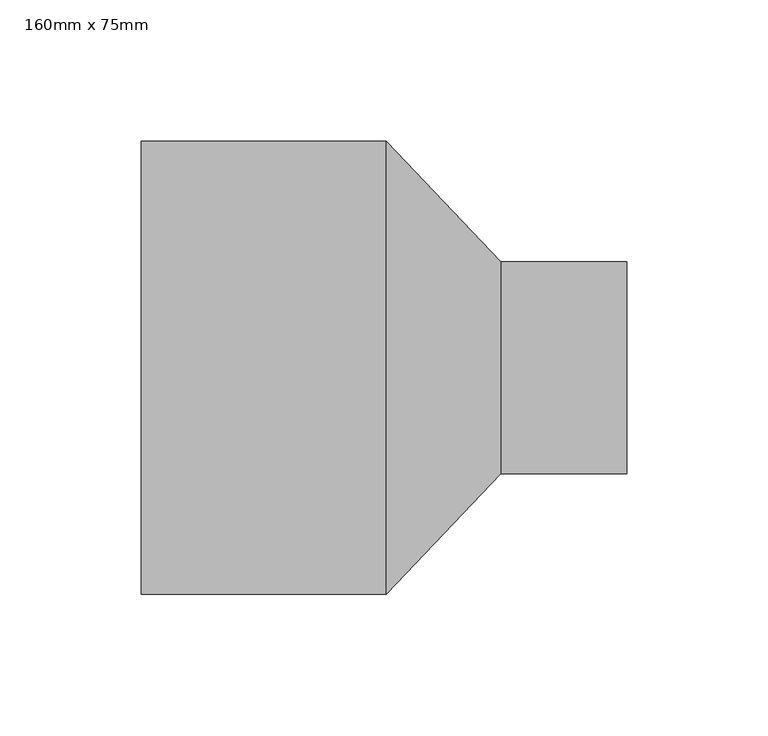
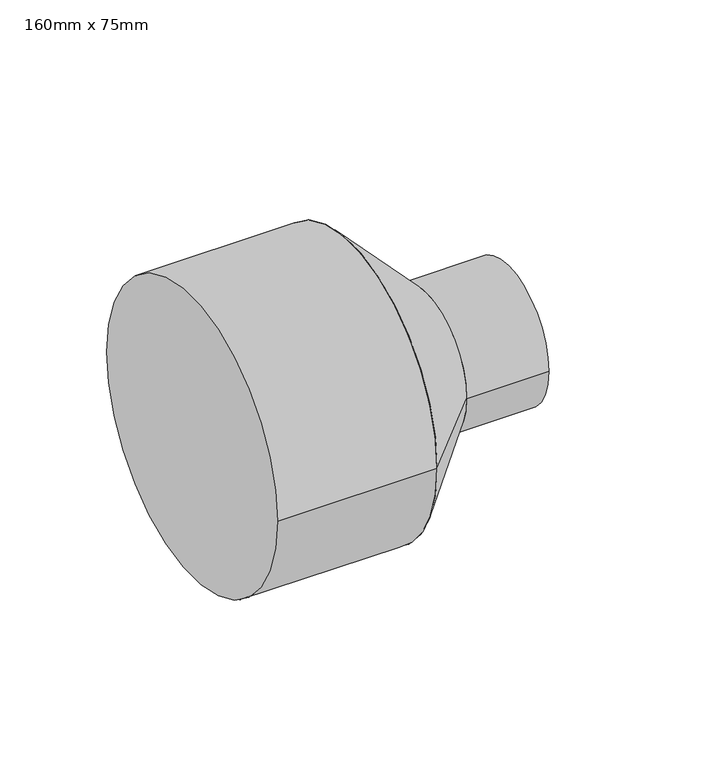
"""IFC4 building model written with IfcOpenShell, lengths in millimetres: pipe fitting geometry, PipeFitting_HTA_CPVC_ReducingBushesLongPattern : 160mm x 75mm."""

from ifc_helpers import new_model, si_unit, point, frame, origin, origin_2d, place, context, project, spatial, polyline, circle_curve, trimmed, segment, composite_curve, outline, extrude, source, transform, mapped, element, save
from ifc_brep_helpers import plane_surface, revolved_surface, advanced_brep


def pipe_fitting_160mm_x_75mm_1847dd5a(model_context):
    return source(origin(), model_context, "Body", "SolidModel", [
        advanced_brep(
        [(127.0, -37.5, 0.0), (127.0, 37.5, 0.0), (86.5, -80.0, 0.0), (86.5, 80.0, 0.0)],
        [
            (0, 1, circle_curve(frame((127.0, 0.0, 0.0), z_axis=(1.0, 0.0, 0.0), x_axis=(0.0, -1.0, 0.0)), 37.5)),
            (1, 0, circle_curve(frame((127.0, 0.0, 0.0), z_axis=(1.0, 0.0, 0.0), x_axis=(0.0, 1.0, 0.0)), 37.5)),
            (2, 3, circle_curve(frame((86.5, 0.0, 0.0), z_axis=(-1.0, 0.0, 0.0), x_axis=(0.0, 1.0, 0.0)), 80.0)),
            (3, 2, circle_curve(frame((86.5, 0.0, 0.0), z_axis=(-1.0, 0.0, 0.0), x_axis=(0.0, -1.0, 0.0)), 80.0)),
            (3, 1),
            (0, 2),
        ],
        [
            plane_surface(frame((127.0, 0.0, 0.0), z_axis=(1.0, 0.0, 0.0), x_axis=(0.0, 0.0, -1.0))),
            plane_surface(frame((86.5, 0.0, 0.0), z_axis=(-1.0, 0.0, 0.0), x_axis=(0.0, 0.0, -1.0))),
            revolved_surface(polyline([(127.0, -37.49999999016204, 0.0), (86.5, -80.0, 0.0)]), (162.7352941, 0.0, 0.0), (-1.0, 0.0, 0.0)),
            revolved_surface(polyline([(127.0, 37.49999999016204, 0.0), (86.5, 80.0, 0.0)]), (162.7352941, 0.0, 0.0), (-1.0, 0.0, 0.0)),
        ],
        [
            (0, [[1, 2]]),
            (1, [[3, 4]]),
            (2, [[-4, 5, -1, 6]]),
            (3, [[-3, -6, -2, -5]]),
        ],
    ),
        extrude(outline(composite_curve([segment(trimmed(circle_curve(origin_2d(), 37.5), [point((-37.5, 0.0))], [point((37.5, 0.0))], False, "CARTESIAN"), True, "CONTINUOUS"), segment(trimmed(circle_curve(origin_2d(), 37.5), [point((37.5, 0.0))], [point((-37.5, 0.0))], False, "CARTESIAN"), True, "CONTINUOUS")], self_intersect=False)), frame((127.0, 0.0, 0.0), z_axis=(1.0, 0.0, 0.0), x_axis=(0.0, 1.0, 0.0)), (0.0, 0.0, 1.0), 44.5),
        extrude(outline(composite_curve([segment(trimmed(circle_curve(origin_2d(), 80.0), [point((-80.0, 0.0))], [point((80.0, 0.0))], False, "CARTESIAN"), True, "CONTINUOUS"), segment(trimmed(circle_curve(origin_2d(), 80.0), [point((80.0, 0.0))], [point((-80.0, 0.0))], False, "CARTESIAN"), True, "CONTINUOUS")], self_intersect=False)), frame((0.0, 0.0, 0.0), z_axis=(1.0, 0.0, 0.0), x_axis=(0.0, 1.0, 0.0)), (0.0, 0.0, 1.0), 86.5),
    ])


if __name__ == "__main__":
    model = new_model("IFC4")
    model_context = context("Model", 3, world=origin())
    ifc_project = project(units=[si_unit("LENGTHUNIT", "METRE", prefix="MILLI")], contexts=[model_context])
    site = spatial("IfcSite", under=ifc_project)
    building = spatial("IfcBuilding", under=site)
    placement = place(None, origin())
    pipe_fitting_160mm_x_75mm_shape = pipe_fitting_160mm_x_75mm_1847dd5a(model_context)
    element("IfcPipeFitting", 1, ObjectType="PipeFitting_HTA_CPVC_ReducingBushesLongPattern : 160mm x 75mm", at=placement, inside=building, context=model_context, shape_type="MappedRepresentation", body=[
        mapped(pipe_fitting_160mm_x_75mm_shape, transform((0.0, 0.0, 0.0), x_axis=(1.0, 0.0, 0.0), y_axis=(0.0, 1.0, 0.0), z_axis=(0.0, 0.0, 1.0))),
    ])
    save(model, "model.ifc")
